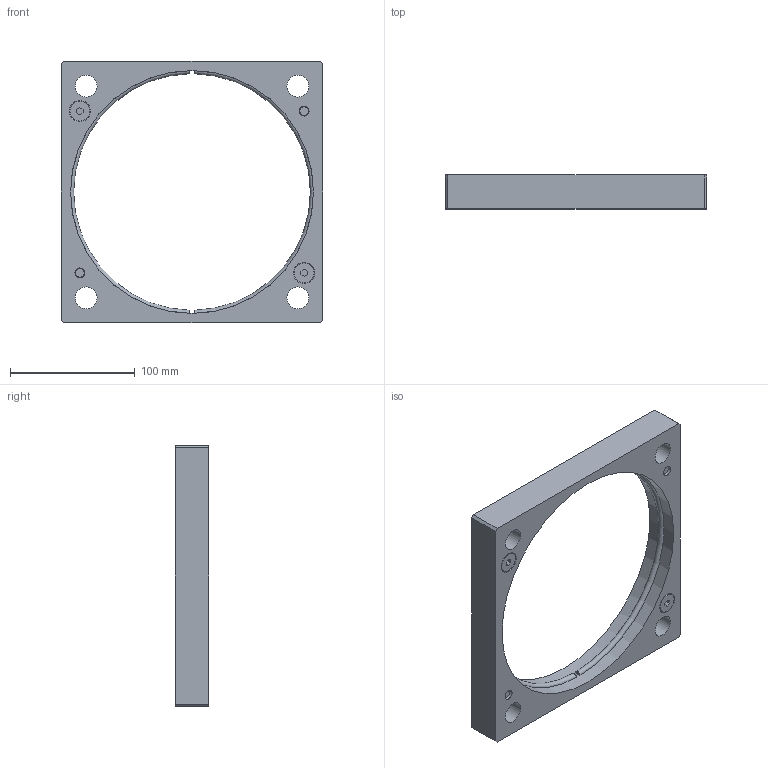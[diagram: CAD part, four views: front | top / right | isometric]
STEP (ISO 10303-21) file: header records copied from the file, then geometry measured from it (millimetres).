
FILE_DESCRIPTION(/* description */ (''),/* implementation_level */ '2;1');
FILE_NAME(/* name */ 'C:\Users\Jefferson\Desktop\Biblioteca Pro Nitro 2024 - Inventor\Flanges\PNB-65-XXX\PNB-65-195.stp',/* time_stamp */ '2024-12-30T16:49:43-03:00',/* author */ ('Jefferson'),/* organization */ (''),/* preprocessor_version */ 'ST-DEVELOPER v19',/* originating_system */ 'Autodesk Inventor 2023',/* authorisation */ '');
FILE_SCHEMA (('AUTOMOTIVE_DESIGN { 1 0 10303 214 3 1 1 }'));
Length unit declared in the file: millimetre
Products named in the file (3): PNB-65-195; PNB-65-195_1; DIN 7991 - M8x25
Assembly tree (5 placements, depth 2):
  PNB-65-195
    PNB-65-195_1
    DIN 7991 - M8x25  x4
Bounding box: 210 x 27 x 210 mm (x, y, z)
Volume: 363207.4 mm3; surface area: 79640.3 mm2
Topology: 5 solids, 5 shells, 251 faces, 657 edges, 436 vertices
Faces by surface type: plane 129, bspline 87, cylinder 17, cone 12, torus 6
Full cylindrical faces by diameter (mm): 8 x8, 16 x4, 17.5 x4, 195 x1
Entity records: 7204 total; most frequent: CARTESIAN_POINT 2350, ORIENTED_EDGE 1122, DIRECTION 683, EDGE_CURVE 561, VERTEX_POINT 373, LINE 343, VECTOR 343, EDGE_LOOP 244
